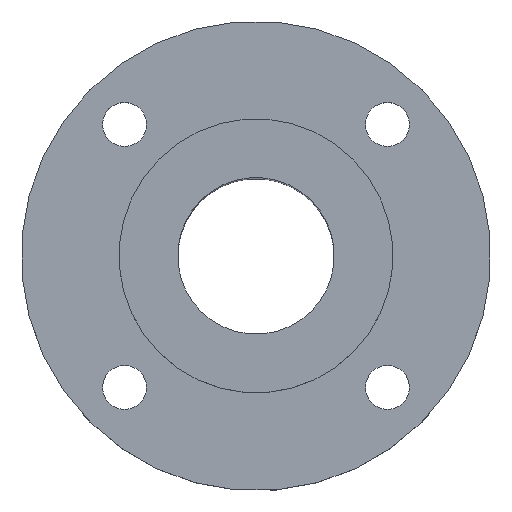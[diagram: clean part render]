
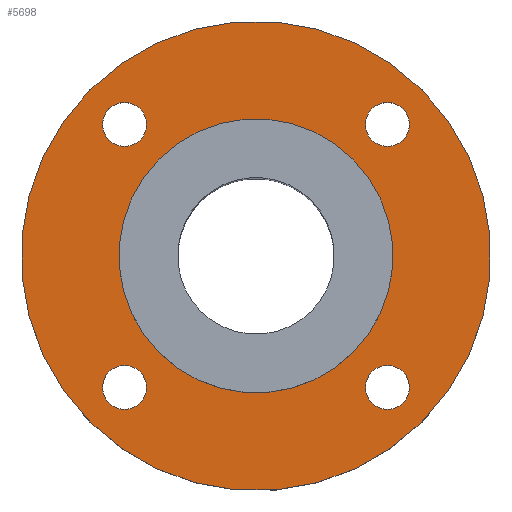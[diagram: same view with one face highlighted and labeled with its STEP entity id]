
A CAD part, top view. The second image highlights one B-rep face of the part: STEP entity #5698.
In plain terms, the highlighted planar face has unit normal (0, 0, 1).
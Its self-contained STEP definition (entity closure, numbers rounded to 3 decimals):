
#114=CIRCLE('',#6060,14.);
#118=CIRCLE('',#6068,24.);
#119=CIRCLE('',#6070,2.25);
#120=CIRCLE('',#6071,2.25);
#121=CIRCLE('',#6072,2.25);
#122=CIRCLE('',#6073,2.25);
#522=ORIENTED_EDGE('',*,*,#2156,.F.);
#523=ORIENTED_EDGE('',*,*,#2157,.F.);
#524=ORIENTED_EDGE('',*,*,#2158,.F.);
#525=ORIENTED_EDGE('',*,*,#2159,.F.);
#526=ORIENTED_EDGE('',*,*,#2151,.T.);
#527=ORIENTED_EDGE('',*,*,#2155,.T.);
#2151=EDGE_CURVE('',#2971,#2971,#114,.F.);
#2155=EDGE_CURVE('',#2975,#2975,#118,.T.);
#2156=EDGE_CURVE('',#2976,#2976,#119,.T.);
#2157=EDGE_CURVE('',#2977,#2977,#120,.T.);
#2158=EDGE_CURVE('',#2978,#2978,#121,.T.);
#2159=EDGE_CURVE('',#2979,#2979,#122,.T.);
#2971=VERTEX_POINT('',#9011);
#2975=VERTEX_POINT('',#9023);
#2976=VERTEX_POINT('',#9026);
#2977=VERTEX_POINT('',#9028);
#2978=VERTEX_POINT('',#9030);
#2979=VERTEX_POINT('',#9032);
#4665=EDGE_LOOP('',(#522));
#4666=EDGE_LOOP('',(#523));
#4667=EDGE_LOOP('',(#524));
#4668=EDGE_LOOP('',(#525));
#4669=EDGE_LOOP('',(#526));
#4670=EDGE_LOOP('',(#527));
#5079=FACE_BOUND('',#4665,.T.);
#5080=FACE_BOUND('',#4666,.T.);
#5081=FACE_BOUND('',#4667,.T.);
#5082=FACE_BOUND('',#4668,.T.);
#5083=FACE_BOUND('',#4669,.T.);
#5084=FACE_BOUND('',#4670,.T.);
#5435=PLANE('',#6069);
#5698=ADVANCED_FACE('',(#5079,#5080,#5081,#5082,#5083,#5084),#5435,.T.);
#6060=AXIS2_PLACEMENT_3D('',#9010,#6587,#6588);
#6068=AXIS2_PLACEMENT_3D('',#9022,#6603,#6604);
#6069=AXIS2_PLACEMENT_3D('',#9024,#6605,#6606);
#6070=AXIS2_PLACEMENT_3D('',#9025,#6607,#6608);
#6071=AXIS2_PLACEMENT_3D('',#9027,#6609,#6610);
#6072=AXIS2_PLACEMENT_3D('',#9029,#6611,#6612);
#6073=AXIS2_PLACEMENT_3D('',#9031,#6613,#6614);
#6587=DIRECTION('',(0.,0.,1.));
#6588=DIRECTION('',(0.707,-0.707,0.));
#6603=DIRECTION('',(0.,0.,1.));
#6604=DIRECTION('',(0.707,-0.707,0.));
#6605=DIRECTION('',(0.,0.,1.));
#6606=DIRECTION('',(0.707,-0.707,0.));
#6607=DIRECTION('',(0.,0.,1.));
#6608=DIRECTION('',(0.707,-0.707,0.));
#6609=DIRECTION('',(0.,0.,1.));
#6610=DIRECTION('',(0.707,-0.707,0.));
#6611=DIRECTION('',(0.,0.,1.));
#6612=DIRECTION('',(0.707,-0.707,0.));
#6613=DIRECTION('',(0.,0.,1.));
#6614=DIRECTION('',(0.707,-0.707,0.));
#9010=CARTESIAN_POINT('',(0.,0.,0.));
#9011=CARTESIAN_POINT('',(9.899,-9.899,0.));
#9022=CARTESIAN_POINT('',(0.,0.,0.));
#9023=CARTESIAN_POINT('',(16.971,-16.971,0.));
#9024=CARTESIAN_POINT('',(0.,0.,0.));
#9025=CARTESIAN_POINT('',(13.435,13.435,0.));
#9026=CARTESIAN_POINT('',(15.026,11.844,0.));
#9027=CARTESIAN_POINT('',(-13.435,13.435,0.));
#9028=CARTESIAN_POINT('',(-11.844,11.844,0.));
#9029=CARTESIAN_POINT('',(-13.435,-13.435,0.));
#9030=CARTESIAN_POINT('',(-11.844,-15.026,0.));
#9031=CARTESIAN_POINT('',(13.435,-13.435,0.));
#9032=CARTESIAN_POINT('',(15.026,-15.026,0.));
